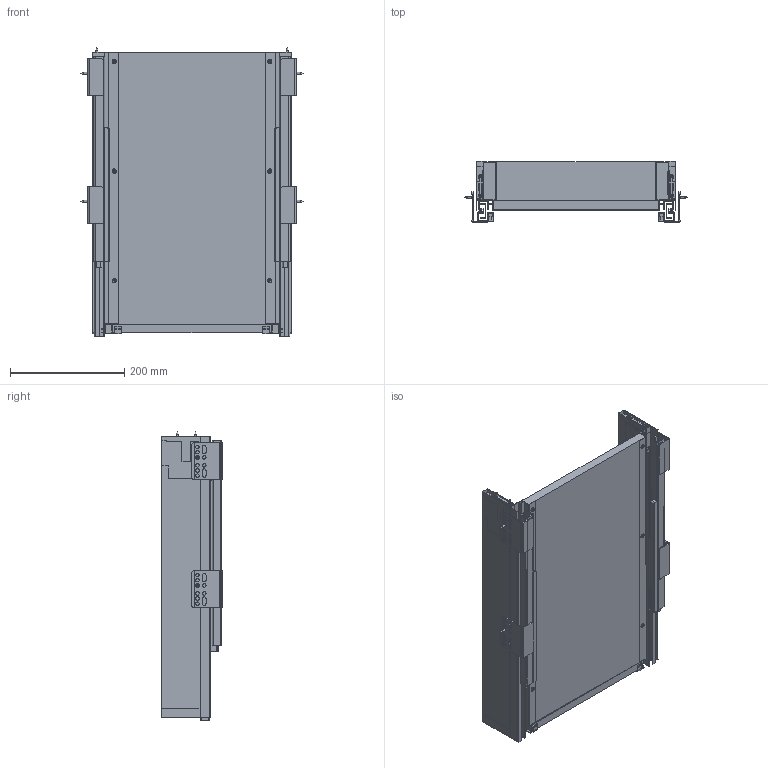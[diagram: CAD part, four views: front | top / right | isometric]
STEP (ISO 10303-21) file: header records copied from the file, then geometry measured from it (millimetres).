
FILE_DESCRIPTION(/* description */ (''),/* implementation_level */ '2;1');
FILE_NAME(/* name */ 'D:\$Workingspace\Designs\Katalog\Cadsoft\GTV Prowadnice\GTV 3D AXISPRO\Model\PB-AXISPRO-KPL500A_A1.stp',/* time_stamp */ '2019-10-18T16:11:47+02:00',/* author */ ('tomaszw'),/* organization */ (''),/* preprocessor_version */ 'ST-DEVELOPER v17.2',/* originating_system */ 'Autodesk Inventor 2019',/* authorisation */ '');
FILE_SCHEMA (('AUTOMOTIVE_DESIGN { 1 0 10303 214 3 1 1 }'));
Length unit declared in the file: millimetre
Products named in the file (1): PB-AXISPRO-KPL500A1-F
Bounding box: 388.6 x 107 x 504.9 mm (x, y, z)
Volume: 3076319.1 mm3; surface area: 1185269.1 mm2
Topology: 41 solids, 43 shells, 1508 faces, 3958 edges, 2586 vertices
Faces by surface type: plane 1076, cylinder 280, cone 92, bspline 52, sphere 6, torus 2
Full cylindrical faces by diameter (mm): 2 x2, 3.5 x22, 6 x40, 7.5 x20, 7.8 x2, 8.5 x2, 10 x6
Entity records: 46898 total; most frequent: CARTESIAN_POINT 9145, ORIENTED_EDGE 7904, DIRECTION 7430, EDGE_CURVE 3952, LINE 3120, VECTOR 3120, VERTEX_POINT 2586, AXIS2_PLACEMENT_3D 2155
